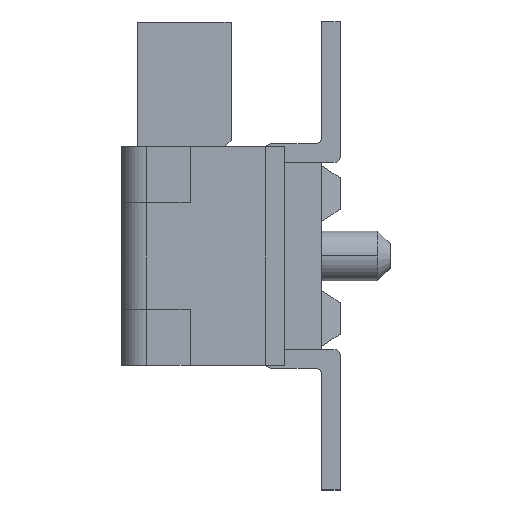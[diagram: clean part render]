
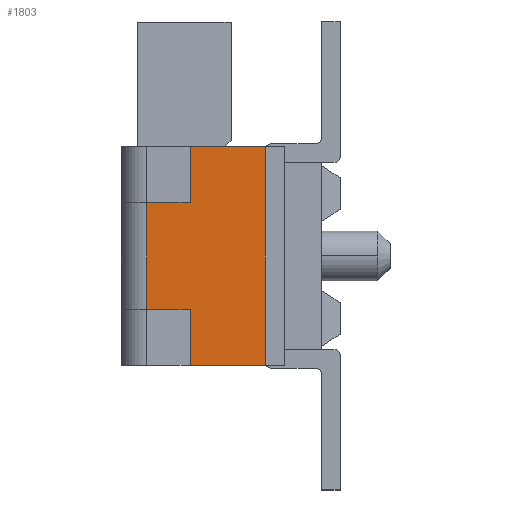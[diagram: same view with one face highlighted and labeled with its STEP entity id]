
A CAD part, left-side view. The second image highlights one B-rep face of the part: STEP entity #1803.
In plain terms, the highlighted planar face has unit normal (-1, 0, 0).
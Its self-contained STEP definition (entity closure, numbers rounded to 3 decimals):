
#1787 = ORIENTED_EDGE ( 'NONE', *, *, #1788, .T. ) ;
#1788 = EDGE_CURVE ( 'NONE', #1808, #1809, #6703, .T. ) ;
#1789 = ORIENTED_EDGE ( 'NONE', *, *, #1790, .F. ) ;
#1790 = EDGE_CURVE ( 'NONE', #1791, #1809, #6699, .T. ) ;
#1791 = VERTEX_POINT ( 'NONE', #6695 ) ;
#1792 = ORIENTED_EDGE ( 'NONE', *, *, #1793, .F. ) ;
#1793 = EDGE_CURVE ( 'NONE', #1794, #1791, #6694, .T. ) ;
#1794 = VERTEX_POINT ( 'NONE', #6749 ) ;
#1795 = ORIENTED_EDGE ( 'NONE', *, *, #1796, .F. ) ;
#1796 = EDGE_CURVE ( 'NONE', #1797, #1794, #6748, .T. ) ;
#1797 = VERTEX_POINT ( 'NONE', #6744 ) ;
#1798 = ORIENTED_EDGE ( 'NONE', *, *, #1799, .F. ) ;
#1799 = EDGE_CURVE ( 'NONE', #1800, #1797, #6743, .T. ) ;
#1800 = VERTEX_POINT ( 'NONE', #6739 ) ;
#1801 = VERTEX_POINT ( 'NONE', #6738 ) ;
#1803 = ADVANCED_FACE ( 'NONE', ( #6722 ), #6762, .F. ) ;
#1804 = EDGE_LOOP ( 'NONE', ( #1805, #1787, #1789, #1792, #1795, #1798, #1849, #1851 ) ) ;
#1805 = ORIENTED_EDGE ( 'NONE', *, *, #1806, .T. ) ;
#1806 = EDGE_CURVE ( 'NONE', #1807, #1808, #6757, .T. ) ;
#1807 = VERTEX_POINT ( 'NONE', #6753 ) ;
#1808 = VERTEX_POINT ( 'NONE', #6752 ) ;
#1809 = VERTEX_POINT ( 'NONE', #6751 ) ;
#1849 = ORIENTED_EDGE ( 'NONE', *, *, #1850, .F. ) ;
#1850 = EDGE_CURVE ( 'NONE', #1801, #1800, #6809, .T. ) ;
#1851 = ORIENTED_EDGE ( 'NONE', *, *, #1852, .F. ) ;
#1852 = EDGE_CURVE ( 'NONE', #1807, #1801, #6866, .T. ) ;
#6692 = VECTOR ( 'NONE', #6750, 1000. ) ;
#6693 = CARTESIAN_POINT ( 'NONE',  ( -6.5, 1.2, -1.75 ) ) ;
#6694 = LINE ( 'NONE', #6693, #6692 ) ;
#6695 = CARTESIAN_POINT ( 'NONE',  ( -6.5, 2.408, -1.75 ) ) ;
#6696 = DIRECTION ( 'NONE',  ( 0., 0., 1. ) ) ;
#6697 = VECTOR ( 'NONE', #6696, 1000. ) ;
#6698 = CARTESIAN_POINT ( 'NONE',  ( -6.5, 2.408, -1.75 ) ) ;
#6699 = LINE ( 'NONE', #6698, #6697 ) ;
#6700 = DIRECTION ( 'NONE',  ( 0., -1., 0. ) ) ;
#6701 = VECTOR ( 'NONE', #6700, 1000. ) ;
#6702 = CARTESIAN_POINT ( 'NONE',  ( -6.5, 16.963, -0.85 ) ) ;
#6703 = LINE ( 'NONE', #6702, #6701 ) ;
#6722 = FACE_OUTER_BOUND ( 'NONE', #1804, .T. ) ;
#6738 = CARTESIAN_POINT ( 'NONE',  ( -6.5, 2.408, 0.85 ) ) ;
#6739 = CARTESIAN_POINT ( 'NONE',  ( -6.5, 2.408, 1.75 ) ) ;
#6740 = DIRECTION ( 'NONE',  ( 0., -1., 0. ) ) ;
#6741 = VECTOR ( 'NONE', #6740, 1000. ) ;
#6742 = CARTESIAN_POINT ( 'NONE',  ( -6.5, 2.408, 1.75 ) ) ;
#6743 = LINE ( 'NONE', #6742, #6741 ) ;
#6744 = CARTESIAN_POINT ( 'NONE',  ( -6.5, 1.2, 1.75 ) ) ;
#6745 = DIRECTION ( 'NONE',  ( 0., 0., -1. ) ) ;
#6746 = VECTOR ( 'NONE', #6745, 1000. ) ;
#6747 = CARTESIAN_POINT ( 'NONE',  ( -6.5, 1.2, -1.75 ) ) ;
#6748 = LINE ( 'NONE', #6747, #6746 ) ;
#6749 = CARTESIAN_POINT ( 'NONE',  ( -6.5, 1.2, -1.75 ) ) ;
#6750 = DIRECTION ( 'NONE',  ( 0., 1., 0. ) ) ;
#6751 = CARTESIAN_POINT ( 'NONE',  ( -6.5, 2.408, -0.85 ) ) ;
#6752 = CARTESIAN_POINT ( 'NONE',  ( -6.5, 3.097, -0.85 ) ) ;
#6753 = CARTESIAN_POINT ( 'NONE',  ( -6.5, 3.097, 0.85 ) ) ;
#6754 = DIRECTION ( 'NONE',  ( 0., 0., -1. ) ) ;
#6755 = VECTOR ( 'NONE', #6754, 1000. ) ;
#6756 = CARTESIAN_POINT ( 'NONE',  ( -6.5, 3.097, 1.8 ) ) ;
#6757 = LINE ( 'NONE', #6756, #6755 ) ;
#6758 = DIRECTION ( 'NONE',  ( 0., 0., -1. ) ) ;
#6759 = DIRECTION ( 'NONE',  ( 1., 0., 0. ) ) ;
#6760 = CARTESIAN_POINT ( 'NONE',  ( -6.5, 16.963, -0.85 ) ) ;
#6761 = AXIS2_PLACEMENT_3D ( 'NONE', #6760, #6759, #6758 ) ;
#6762 = PLANE ( 'NONE',  #6761 ) ;
#6807 = VECTOR ( 'NONE', #6868, 1000. ) ;
#6808 = CARTESIAN_POINT ( 'NONE',  ( -6.5, 2.408, 0.85 ) ) ;
#6809 = LINE ( 'NONE', #6808, #6807 ) ;
#6863 = DIRECTION ( 'NONE',  ( 0., -1., 0. ) ) ;
#6864 = VECTOR ( 'NONE', #6863, 1000. ) ;
#6865 = CARTESIAN_POINT ( 'NONE',  ( -6.5, 16.963, 0.85 ) ) ;
#6866 = LINE ( 'NONE', #6865, #6864 ) ;
#6868 = DIRECTION ( 'NONE',  ( 0., 0., 1. ) ) ;
